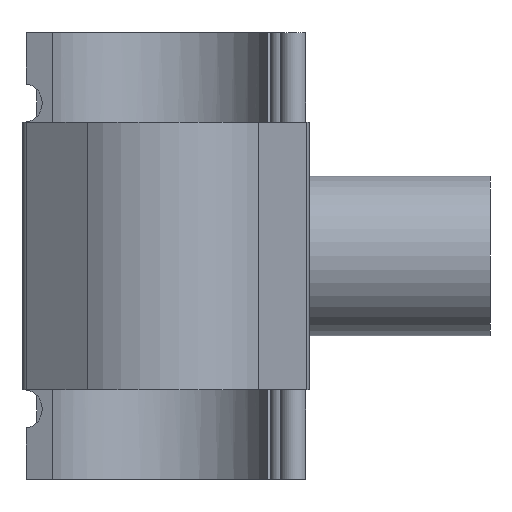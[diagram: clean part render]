
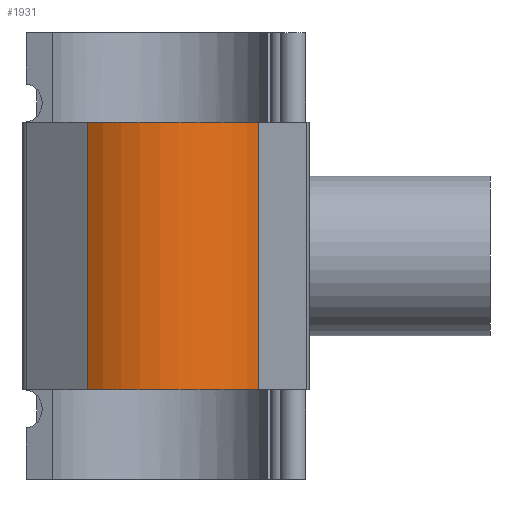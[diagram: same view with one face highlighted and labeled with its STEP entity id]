
A CAD part, front view. The second image highlights one B-rep face of the part: STEP entity #1931.
In plain terms, the highlighted cylindrical face has radius 46.35 mm (diameter 92.7 mm), a partial arc.
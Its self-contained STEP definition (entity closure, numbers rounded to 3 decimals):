
#222=FACE_OUTER_BOUND('',#346,.T.);
#346=EDGE_LOOP('',(#1766,#1767,#1768,#1769));
#446=CIRCLE('',#2143,46.35);
#449=CIRCLE('',#2147,46.35);
#601=LINE('',#3942,#749);
#605=LINE('',#3951,#753);
#749=VECTOR('',#2716,10.);
#753=VECTOR('',#2730,10.);
#931=VERTEX_POINT('',#3905);
#932=VERTEX_POINT('',#3907);
#935=VERTEX_POINT('',#3915);
#936=VERTEX_POINT('',#3917);
#1197=EDGE_CURVE('',#931,#932,#446,.T.);
#1202=EDGE_CURVE('',#935,#936,#449,.T.);
#1216=EDGE_CURVE('',#935,#932,#601,.T.);
#1220=EDGE_CURVE('',#931,#936,#605,.T.);
#1766=ORIENTED_EDGE('',*,*,#1220,.T.);
#1767=ORIENTED_EDGE('',*,*,#1202,.F.);
#1768=ORIENTED_EDGE('',*,*,#1216,.T.);
#1769=ORIENTED_EDGE('',*,*,#1197,.F.);
#1827=CYLINDRICAL_SURFACE('',#2162,46.35);
#1931=ADVANCED_FACE('',(#222),#1827,.T.);
#2143=AXIS2_PLACEMENT_3D('',#3908,#2678,#2679);
#2147=AXIS2_PLACEMENT_3D('',#3918,#2688,#2689);
#2162=AXIS2_PLACEMENT_3D('',#3952,#2731,#2732);
#2678=DIRECTION('center_axis',(0.,0.,-1.));
#2679=DIRECTION('ref_axis',(0.622,0.783,0.));
#2688=DIRECTION('center_axis',(0.,0.,1.));
#2689=DIRECTION('ref_axis',(0.622,0.783,0.));
#2716=DIRECTION('',(0.,0.,-1.));
#2730=DIRECTION('',(0.,0.,1.));
#2731=DIRECTION('center_axis',(0.,0.,1.));
#2732=DIRECTION('ref_axis',(0.622,0.783,0.));
#3905=CARTESIAN_POINT('',(38.79,-25.371,-52.8));
#3907=CARTESIAN_POINT('',(-28.818,-36.302,-52.8));
#3908=CARTESIAN_POINT('Origin',(0.,0.,
-52.8));
#3915=CARTESIAN_POINT('',(-28.818,-36.302,52.8));
#3917=CARTESIAN_POINT('',(38.79,-25.371,52.8));
#3918=CARTESIAN_POINT('Origin',(0.,0.,
52.8));
#3942=CARTESIAN_POINT('',(-28.818,-36.302,0.));
#3951=CARTESIAN_POINT('',(38.79,-25.371,0.));
#3952=CARTESIAN_POINT('Origin',(0.,0.,
0.));
